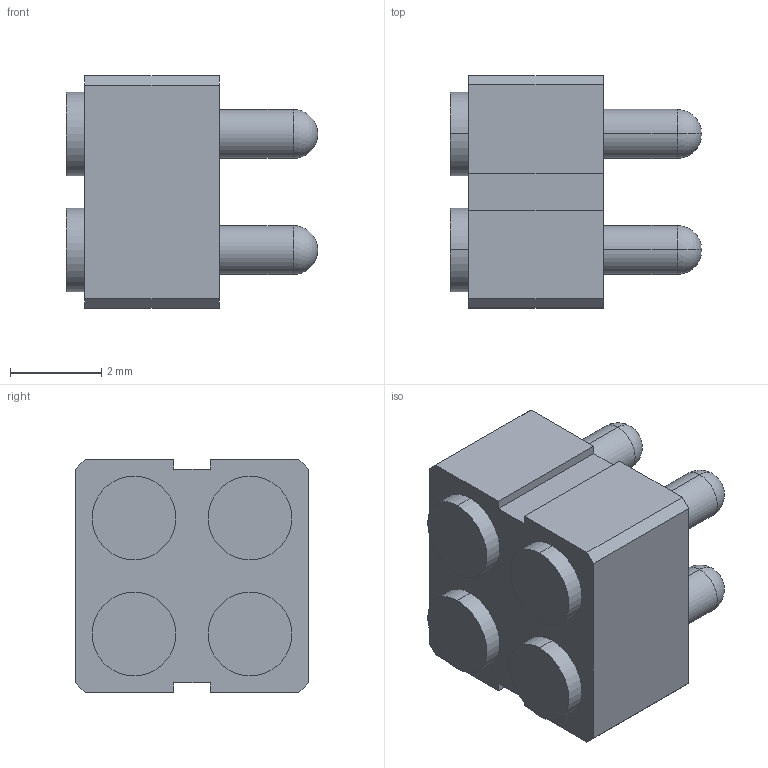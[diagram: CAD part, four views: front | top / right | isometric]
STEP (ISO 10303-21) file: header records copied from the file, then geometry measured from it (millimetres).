
FILE_DESCRIPTION((''),'2;1');
FILE_NAME('ASM0003_ASM','2023-06-07T14:20:36',('USER'),(''),'CREO PARAMETRIC BY PTC INC, 2020154','CREO PARAMETRIC BY PTC INC, 2020154','');
FILE_SCHEMA(('CONFIG_CONTROL_DESIGN'));
Length unit declared in the file: millimetre
Products named in the file (3): PRT0006; PRT0005; ASM0003_ASM
Assembly tree (5 placements, depth 2):
  ASM0003_ASM
    PRT0006
    PRT0005  x4
Bounding box: 5.5 x 5.08 x 5.08 mm (x, y, z)
Volume: 91.4 mm3; surface area: 254.3 mm2
Topology: 5 solids, 5 shells, 106 faces, 232 edges, 140 vertices
Faces by surface type: cylinder 48, plane 34, sphere 8, torus 8, cone 8
Entity records: 1468 total; most frequent: DIRECTION 260, CARTESIAN_POINT 235, ORIENTED_EDGE 220, EDGE_CURVE 110, AXIS2_PLACEMENT_3D 96, VERTEX_POINT 71, VECTOR 68, LINE 68
